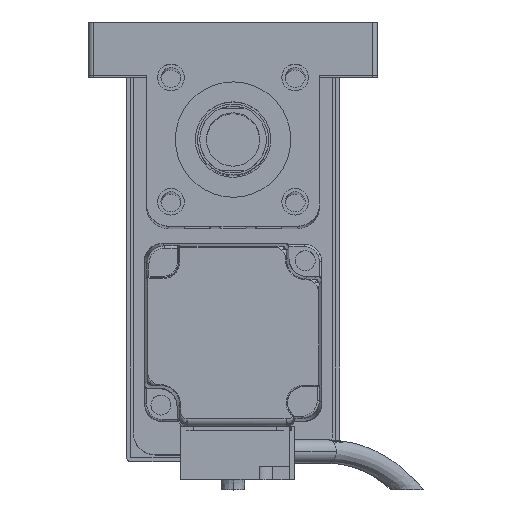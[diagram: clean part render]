
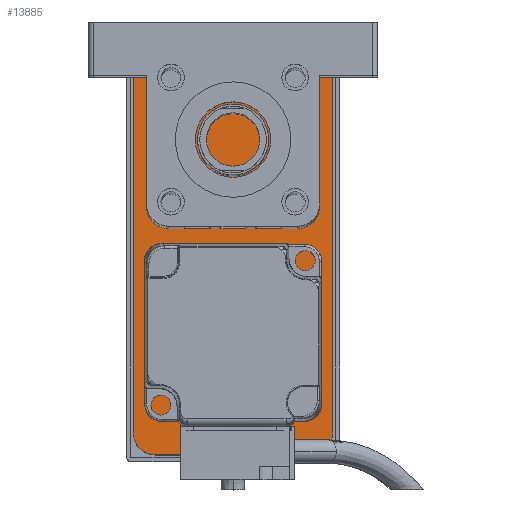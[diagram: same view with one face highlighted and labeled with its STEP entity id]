
A CAD part, top view. The second image highlights one B-rep face of the part: STEP entity #13885.
In plain terms, the highlighted planar face has unit normal (0, 0, 1).
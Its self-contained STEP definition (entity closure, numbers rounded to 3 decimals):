
#2219 = EDGE_LOOP ( 'NONE', ( #15241, #5856, #20609, #24589, #21883, #12304, #8617, #25370 ) ) ;
#2865 = CARTESIAN_POINT ( 'NONE',  ( -17.5, -40., 10. ) ) ;
#3306 = VERTEX_POINT ( 'NONE', #14400 ) ;
#4438 = DIRECTION ( 'NONE',  ( 1., 0., 0. ) ) ;
#4661 = AXIS2_PLACEMENT_3D ( 'NONE', #2865, #22571, #18685 ) ;
#5238 = DIRECTION ( 'NONE',  ( 1., 0., 0. ) ) ;
#5856 = ORIENTED_EDGE ( 'NONE', *, *, #12951, .T. ) ;
#6066 = EDGE_CURVE ( 'NONE', #13916, #8913, #22492, .T. ) ;
#6876 = CARTESIAN_POINT ( 'NONE',  ( -22.5, -45., 10. ) ) ;
#6919 = EDGE_CURVE ( 'NONE', #18868, #17943, #11001, .T. ) ;
#7130 = CARTESIAN_POINT ( 'NONE',  ( 17.5, 40., 10. ) ) ;
#7476 = EDGE_CURVE ( 'NONE', #3306, #18868, #23635, .T. ) ;
#7611 = VECTOR ( 'NONE', #4438, 1000. ) ;
#8008 = DIRECTION ( 'NONE',  ( -1., 0., 0. ) ) ;
#8146 = CARTESIAN_POINT ( 'NONE',  ( -22.5, 40., 10. ) ) ;
#8158 = CARTESIAN_POINT ( 'NONE',  ( 22.5, -45., 10. ) ) ;
#8241 = DIRECTION ( 'NONE',  ( 1., 0., 0. ) ) ;
#8518 = VECTOR ( 'NONE', #8008, 1000. ) ;
#8617 = ORIENTED_EDGE ( 'NONE', *, *, #6066, .T. ) ;
#8874 = AXIS2_PLACEMENT_3D ( 'NONE', #7130, #17089, #5238 ) ;
#8913 = VERTEX_POINT ( 'NONE', #15888 ) ;
#9226 = EDGE_CURVE ( 'NONE', #25247, #18307, #25141, .T. ) ;
#9827 = CARTESIAN_POINT ( 'NONE',  ( 22.5, 45., 10. ) ) ;
#10032 = LINE ( 'NONE', #6876, #21180 ) ;
#10521 = AXIS2_PLACEMENT_3D ( 'NONE', #16017, #19909, #20079 ) ;
#10998 = CIRCLE ( 'NONE', #13264, 5. ) ;
#11001 = CIRCLE ( 'NONE', #23490, 5. ) ;
#11616 = CARTESIAN_POINT ( 'NONE',  ( 22.5, -45., 10. ) ) ;
#12304 = ORIENTED_EDGE ( 'NONE', *, *, #20933, .T. ) ;
#12347 = CARTESIAN_POINT ( 'NONE',  ( 17.5, -40., 10. ) ) ;
#12951 = EDGE_CURVE ( 'NONE', #18307, #3306, #23500, .T. ) ;
#13105 = VECTOR ( 'NONE', #25442, 1000. ) ;
#13264 = AXIS2_PLACEMENT_3D ( 'NONE', #12347, #14375, #22303 ) ;
#13477 = CARTESIAN_POINT ( 'NONE',  ( 22.5, -40., 10. ) ) ;
#13885 = ADVANCED_FACE ( 'NONE', ( #16047 ), #20174, .T. ) ;
#13916 = VERTEX_POINT ( 'NONE', #20425 ) ;
#14375 = DIRECTION ( 'NONE',  ( 0., 0., 1. ) ) ;
#14400 = CARTESIAN_POINT ( 'NONE',  ( 17.5, 45., 10. ) ) ;
#14527 = CARTESIAN_POINT ( 'NONE',  ( 22.5, 40., 10. ) ) ;
#15241 = ORIENTED_EDGE ( 'NONE', *, *, #9226, .T. ) ;
#15888 = CARTESIAN_POINT ( 'NONE',  ( 17.5, -45., 10. ) ) ;
#16017 = CARTESIAN_POINT ( 'NONE',  ( 0., 0., 10. ) ) ;
#16047 = FACE_OUTER_BOUND ( 'NONE', #2219, .T. ) ;
#16420 = CARTESIAN_POINT ( 'NONE',  ( -17.5, 45., 10. ) ) ;
#17089 = DIRECTION ( 'NONE',  ( 0., 0., 1. ) ) ;
#17943 = VERTEX_POINT ( 'NONE', #8146 ) ;
#18307 = VERTEX_POINT ( 'NONE', #14527 ) ;
#18685 = DIRECTION ( 'NONE',  ( 1., 0., 0. ) ) ;
#18868 = VERTEX_POINT ( 'NONE', #16420 ) ;
#18909 = EDGE_CURVE ( 'NONE', #8913, #25247, #10998, .T. ) ;
#19047 = VERTEX_POINT ( 'NONE', #20101 ) ;
#19636 = EDGE_CURVE ( 'NONE', #17943, #19047, #10032, .T. ) ;
#19909 = DIRECTION ( 'NONE',  ( 0., 0., 1. ) ) ;
#20075 = CARTESIAN_POINT ( 'NONE',  ( -17.5, 40., 10. ) ) ;
#20079 = DIRECTION ( 'NONE',  ( 1., 0., 0. ) ) ;
#20101 = CARTESIAN_POINT ( 'NONE',  ( -22.5, -40., 10. ) ) ;
#20174 = PLANE ( 'NONE',  #10521 ) ;
#20425 = CARTESIAN_POINT ( 'NONE',  ( -17.5, -45., 10. ) ) ;
#20609 = ORIENTED_EDGE ( 'NONE', *, *, #7476, .T. ) ;
#20933 = EDGE_CURVE ( 'NONE', #19047, #13916, #24227, .T. ) ;
#21180 = VECTOR ( 'NONE', #24246, 1000. ) ;
#21883 = ORIENTED_EDGE ( 'NONE', *, *, #19636, .T. ) ;
#22076 = DIRECTION ( 'NONE',  ( 0., 0., 1. ) ) ;
#22303 = DIRECTION ( 'NONE',  ( 1., 0., 0. ) ) ;
#22492 = LINE ( 'NONE', #8158, #7611 ) ;
#22571 = DIRECTION ( 'NONE',  ( 0., 0., 1. ) ) ;
#23490 = AXIS2_PLACEMENT_3D ( 'NONE', #20075, #22076, #8241 ) ;
#23500 = CIRCLE ( 'NONE', #8874, 5. ) ;
#23635 = LINE ( 'NONE', #9827, #8518 ) ;
#24227 = CIRCLE ( 'NONE', #4661, 5. ) ;
#24246 = DIRECTION ( 'NONE',  ( 0., -1., 0. ) ) ;
#24589 = ORIENTED_EDGE ( 'NONE', *, *, #6919, .T. ) ;
#25141 = LINE ( 'NONE', #11616, #13105 ) ;
#25247 = VERTEX_POINT ( 'NONE', #13477 ) ;
#25370 = ORIENTED_EDGE ( 'NONE', *, *, #18909, .T. ) ;
#25442 = DIRECTION ( 'NONE',  ( 0., 1., 0. ) ) ;
